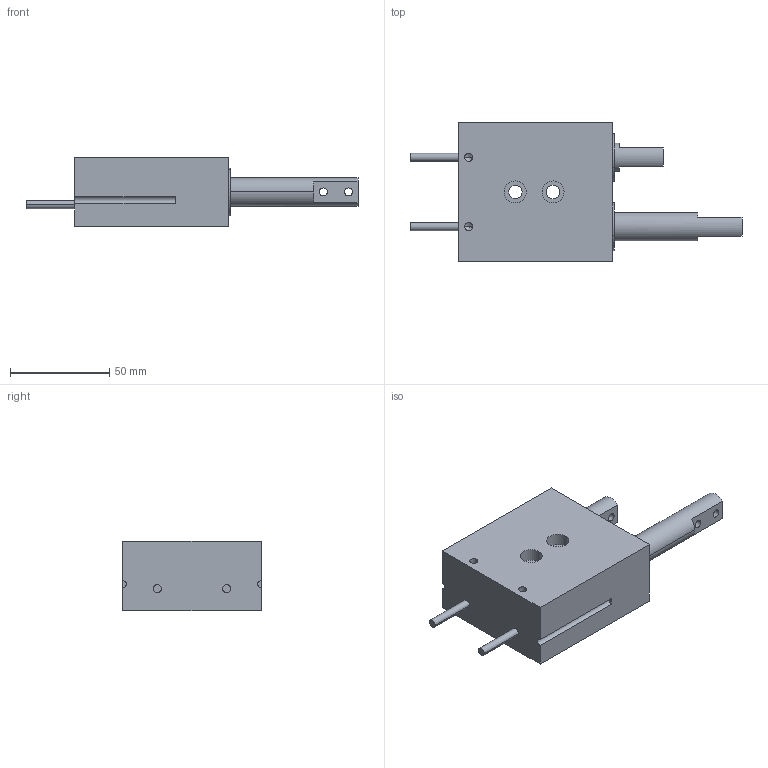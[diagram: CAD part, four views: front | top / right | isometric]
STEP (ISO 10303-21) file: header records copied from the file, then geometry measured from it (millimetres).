
FILE_DESCRIPTION (( 'STEP AP203' ), '1' );
FILE_NAME ('AGE-3 in IN.STEP', '2014-11-19T15:05:51', ( 'setup' ), ( '' ), 'SwSTEP 2.0', 'SolidWorks 2013', '' );
FILE_SCHEMA (( 'CONFIG_CONTROL_DESIGN' ));
Length unit declared in the file: inch
Products named in the file (4): AGE-3 BUSHING; AGE-3 FINGER; AGE-3 in IN; AGE-3 BODY
Assembly tree (5 placements, depth 2):
  AGE-3 in IN
    AGE-3 BODY
    AGE-3 BUSHING  x2
    AGE-3 FINGER  x2
Bounding box: 167.36 x 69.85 x 34.92 mm (x, y, z)
Volume: 156018.3 mm3; surface area: 49908.9 mm2
Topology: 5 solids, 5 shells, 97 faces, 223 edges, 142 vertices
Faces by surface type: cylinder 55, plane 34, cone 8
Entity records: 2635 total; most frequent: DIRECTION 425, CARTESIAN_POINT 361, ORIENTED_EDGE 334, AXIS2_PLACEMENT_3D 174, EDGE_CURVE 167, VERTEX_POINT 110, EDGE_LOOP 99, CIRCLE 90
